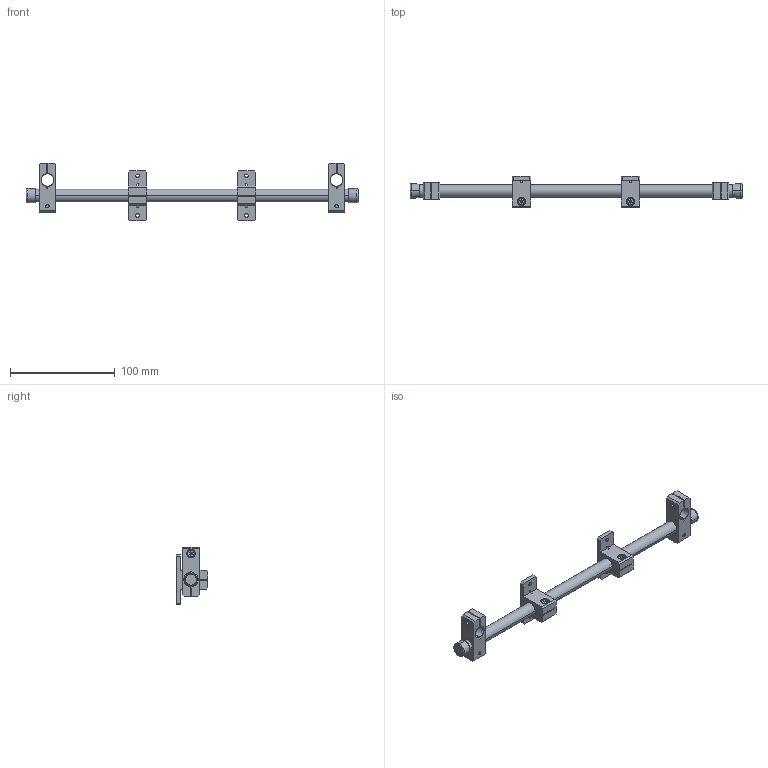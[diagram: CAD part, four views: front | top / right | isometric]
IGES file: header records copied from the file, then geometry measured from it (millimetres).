
Start section: SolidWorks IGES file using analytic representation for surfaces
Global section: file name: E:\EFCKishi\基礎フレーム\EFCK0000\IGES\EFCK-0003.IGS; native system: SolidWorks 2006 by SolidWorks Corporation; preprocessor: SolidWorks 2006 by SolidWorks Corporation; author: CAD58; date: 080913.084849; units: millimetre
Bounding box: 317 x 30 x 55 mm (x, y, z)
Surface area: 47243.3 mm2 (no closed solid volume)
Topology: 0 solids, 0 shells, 330 faces, 4776 edges, 4740 vertices
Faces by surface type: bspline 206, revolution 124
